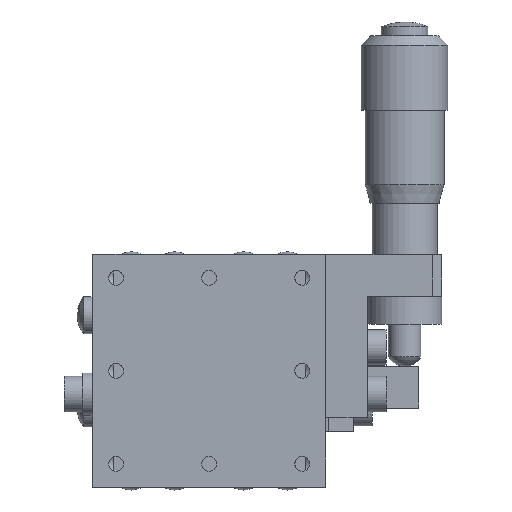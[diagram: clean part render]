
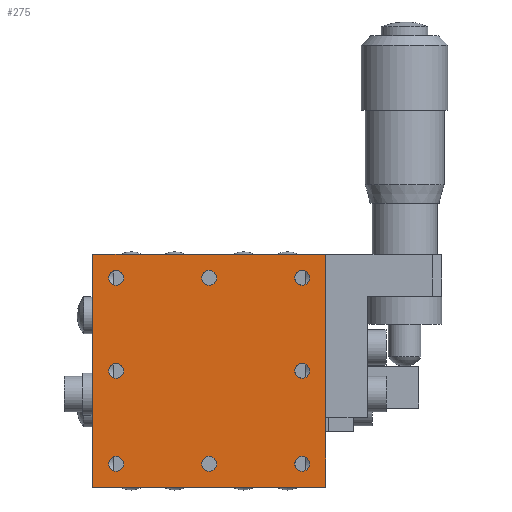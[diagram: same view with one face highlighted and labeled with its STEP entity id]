
A CAD part, top view. The second image highlights one B-rep face of the part: STEP entity #275.
In plain terms, the highlighted planar face has unit normal (0, 0, 1).
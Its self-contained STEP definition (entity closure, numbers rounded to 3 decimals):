
#275 = ADVANCED_FACE( '', ( #634, #635, #636, #637, #638, #639, #640, #641, #642 ), #643, .T. );
#634 = FACE_BOUND( '', #1178, .T. );
#635 = FACE_BOUND( '', #1179, .T. );
#636 = FACE_BOUND( '', #1180, .T. );
#637 = FACE_BOUND( '', #1181, .T. );
#638 = FACE_BOUND( '', #1182, .T. );
#639 = FACE_BOUND( '', #1183, .T. );
#640 = FACE_BOUND( '', #1184, .T. );
#641 = FACE_BOUND( '', #1185, .T. );
#642 = FACE_OUTER_BOUND( '', #1186, .T. );
#643 = PLANE( '', #1187 );
#1178 = EDGE_LOOP( '', ( #2296 ) );
#1179 = EDGE_LOOP( '', ( #2297 ) );
#1180 = EDGE_LOOP( '', ( #2298 ) );
#1181 = EDGE_LOOP( '', ( #2299 ) );
#1182 = EDGE_LOOP( '', ( #2300 ) );
#1183 = EDGE_LOOP( '', ( #2301 ) );
#1184 = EDGE_LOOP( '', ( #2302 ) );
#1185 = EDGE_LOOP( '', ( #2303 ) );
#1186 = EDGE_LOOP( '', ( #2304, #2305, #2306, #2307 ) );
#1187 = AXIS2_PLACEMENT_3D( '', #2308, #2309, #2310 );
#2296 = ORIENTED_EDGE( '', *, *, #3301, .T. );
#2297 = ORIENTED_EDGE( '', *, *, #3302, .T. );
#2298 = ORIENTED_EDGE( '', *, *, #3303, .T. );
#2299 = ORIENTED_EDGE( '', *, *, #3304, .T. );
#2300 = ORIENTED_EDGE( '', *, *, #3305, .T. );
#2301 = ORIENTED_EDGE( '', *, *, #3306, .T. );
#2302 = ORIENTED_EDGE( '', *, *, #3307, .T. );
#2303 = ORIENTED_EDGE( '', *, *, #3308, .T. );
#2304 = ORIENTED_EDGE( '', *, *, #3309, .F. );
#2305 = ORIENTED_EDGE( '', *, *, #3310, .F. );
#2306 = ORIENTED_EDGE( '', *, *, #3311, .F. );
#2307 = ORIENTED_EDGE( '', *, *, #3297, .F. );
#2308 = CARTESIAN_POINT( '', ( 0., 0., 15. ) );
#2309 = DIRECTION( '', ( 0., 0., 1. ) );
#2310 = DIRECTION( '', ( 1., 0., 0. ) );
#3297 = EDGE_CURVE( '', #3926, #3928, #3929, .T. );
#3301 = EDGE_CURVE( '', #3935, #3935, #3936, .T. );
#3302 = EDGE_CURVE( '', #3937, #3937, #3938, .T. );
#3303 = EDGE_CURVE( '', #3939, #3939, #3940, .T. );
#3304 = EDGE_CURVE( '', #3941, #3941, #3942, .T. );
#3305 = EDGE_CURVE( '', #3943, #3943, #3944, .T. );
#3306 = EDGE_CURVE( '', #3945, #3945, #3946, .T. );
#3307 = EDGE_CURVE( '', #3947, #3947, #3948, .T. );
#3308 = EDGE_CURVE( '', #3949, #3949, #3950, .T. );
#3309 = EDGE_CURVE( '', #3951, #3926, #3952, .T. );
#3310 = EDGE_CURVE( '', #3953, #3951, #3954, .T. );
#3311 = EDGE_CURVE( '', #3928, #3953, #3955, .T. );
#3926 = VERTEX_POINT( '', #4910 );
#3928 = VERTEX_POINT( '', #4913 );
#3929 = LINE( '', #4914, #4915 );
#3935 = VERTEX_POINT( '', #4923 );
#3936 = CIRCLE( '', #4924, 0.8 );
#3937 = VERTEX_POINT( '', #4925 );
#3938 = CIRCLE( '', #4926, 0.8 );
#3939 = VERTEX_POINT( '', #4927 );
#3940 = CIRCLE( '', #4928, 0.8 );
#3941 = VERTEX_POINT( '', #4929 );
#3942 = CIRCLE( '', #4930, 0.8 );
#3943 = VERTEX_POINT( '', #4931 );
#3944 = CIRCLE( '', #4932, 0.8 );
#3945 = VERTEX_POINT( '', #4933 );
#3946 = CIRCLE( '', #4934, 0.8 );
#3947 = VERTEX_POINT( '', #4935 );
#3948 = CIRCLE( '', #4936, 0.8 );
#3949 = VERTEX_POINT( '', #4937 );
#3950 = CIRCLE( '', #4938, 0.8 );
#3951 = VERTEX_POINT( '', #4939 );
#3952 = LINE( '', #4940, #4941 );
#3953 = VERTEX_POINT( '', #4942 );
#3954 = LINE( '', #4943, #4944 );
#3955 = LINE( '', #4945, #4946 );
#4910 = CARTESIAN_POINT( '', ( -12.5, -12.5, 15. ) );
#4913 = CARTESIAN_POINT( '', ( -12.5, 12.5, 15. ) );
#4914 = CARTESIAN_POINT( '', ( -12.5, 0., 15. ) );
#4915 = VECTOR( '', #5806, 1000. );
#4923 = CARTESIAN_POINT( '', ( 0.8, 10., 15. ) );
#4924 = AXIS2_PLACEMENT_3D( '', #5812, #5813, #5814 );
#4925 = CARTESIAN_POINT( '', ( 0.8, -10., 15. ) );
#4926 = AXIS2_PLACEMENT_3D( '', #5815, #5816, #5817 );
#4927 = CARTESIAN_POINT( '', ( 10.8, 0., 15. ) );
#4928 = AXIS2_PLACEMENT_3D( '', #5818, #5819, #5820 );
#4929 = CARTESIAN_POINT( '', ( 10.8, 10., 15. ) );
#4930 = AXIS2_PLACEMENT_3D( '', #5821, #5822, #5823 );
#4931 = CARTESIAN_POINT( '', ( -9.2, 10., 15. ) );
#4932 = AXIS2_PLACEMENT_3D( '', #5824, #5825, #5826 );
#4933 = CARTESIAN_POINT( '', ( -9.2, 0., 15. ) );
#4934 = AXIS2_PLACEMENT_3D( '', #5827, #5828, #5829 );
#4935 = CARTESIAN_POINT( '', ( -9.2, -10., 15. ) );
#4936 = AXIS2_PLACEMENT_3D( '', #5830, #5831, #5832 );
#4937 = CARTESIAN_POINT( '', ( 10.8, -10., 15. ) );
#4938 = AXIS2_PLACEMENT_3D( '', #5833, #5834, #5835 );
#4939 = CARTESIAN_POINT( '', ( 12.5, -12.5, 15. ) );
#4940 = CARTESIAN_POINT( '', ( 0., -12.5, 15. ) );
#4941 = VECTOR( '', #5836, 1000. );
#4942 = CARTESIAN_POINT( '', ( 12.5, 12.5, 15. ) );
#4943 = CARTESIAN_POINT( '', ( 12.5, 0., 15. ) );
#4944 = VECTOR( '', #5837, 1000. );
#4945 = CARTESIAN_POINT( '', ( 0., 12.5, 15. ) );
#4946 = VECTOR( '', #5838, 1000. );
#5806 = DIRECTION( '', ( 0., 1., 0. ) );
#5812 = CARTESIAN_POINT( '', ( 0., 10., 15. ) );
#5813 = DIRECTION( '', ( 0., 0., -1. ) );
#5814 = DIRECTION( '', ( 1., 0., 0. ) );
#5815 = CARTESIAN_POINT( '', ( 0., -10., 15. ) );
#5816 = DIRECTION( '', ( 0., 0., -1. ) );
#5817 = DIRECTION( '', ( 1., 0., 0. ) );
#5818 = CARTESIAN_POINT( '', ( 10., 0., 15. ) );
#5819 = DIRECTION( '', ( 0., 0., -1. ) );
#5820 = DIRECTION( '', ( 1., 0., 0. ) );
#5821 = CARTESIAN_POINT( '', ( 10., 10., 15. ) );
#5822 = DIRECTION( '', ( 0., 0., -1. ) );
#5823 = DIRECTION( '', ( 1., 0., 0. ) );
#5824 = CARTESIAN_POINT( '', ( -10., 10., 15. ) );
#5825 = DIRECTION( '', ( 0., 0., -1. ) );
#5826 = DIRECTION( '', ( 1., 0., 0. ) );
#5827 = CARTESIAN_POINT( '', ( -10., 0., 15. ) );
#5828 = DIRECTION( '', ( 0., 0., -1. ) );
#5829 = DIRECTION( '', ( 1., 0., 0. ) );
#5830 = CARTESIAN_POINT( '', ( -10., -10., 15. ) );
#5831 = DIRECTION( '', ( 0., 0., -1. ) );
#5832 = DIRECTION( '', ( 1., 0., 0. ) );
#5833 = CARTESIAN_POINT( '', ( 10., -10., 15. ) );
#5834 = DIRECTION( '', ( 0., 0., -1. ) );
#5835 = DIRECTION( '', ( 1., 0., 0. ) );
#5836 = DIRECTION( '', ( -1., 0., 0. ) );
#5837 = DIRECTION( '', ( 0., -1., 0. ) );
#5838 = DIRECTION( '', ( 1., 0., 0. ) );
